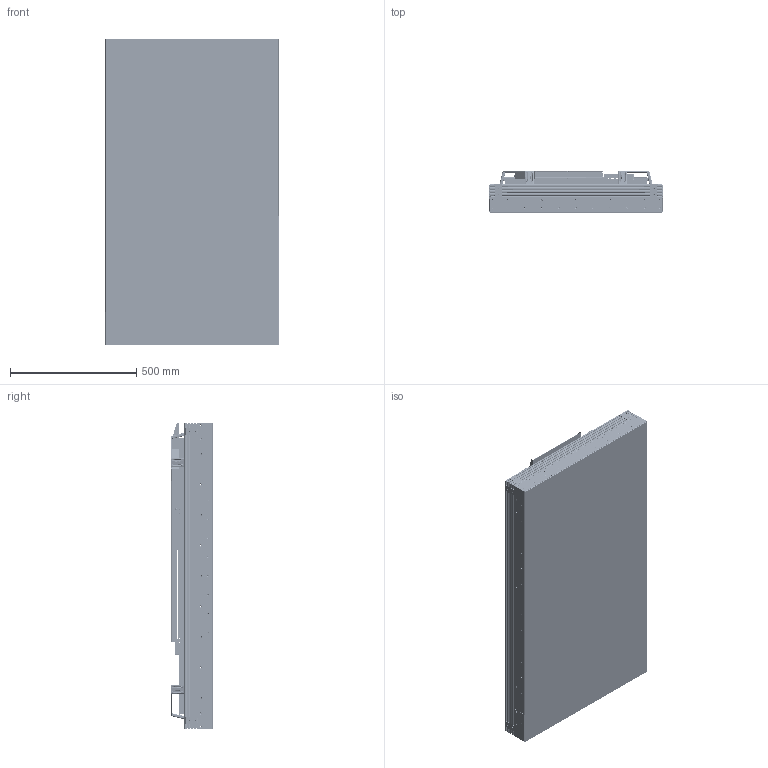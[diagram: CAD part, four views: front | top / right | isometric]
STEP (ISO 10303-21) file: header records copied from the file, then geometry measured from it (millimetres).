
FILE_DESCRIPTION(/* description */ (''),/* implementation_level */ '2;1');
FILE_NAME(/* name */ 'C:/Users/Juuso/Downloads/MT557DwithPortraitAirChannel.step',/* time_stamp */ '2020-12-11T10:24:30+02:00',/* author */ (''),/* organization */ (''),/* preprocessor_version */ 'ST-DEVELOPER v18.1',/* originating_system */ 'Autodesk Translation Framework v9.7.1.1290',/* authorisation */ '');
FILE_SCHEMA (('AUTOMOTIVE_DESIGN { 1 0 10303 214 3 1 1 }'));
Products named in the file (62): MT0901271RIGIDshell; MT0901270_MT557D Display BL Assy; MT0901269_MT557D Base Fame Assy; MT0601287; MT0601286_MT0601058; MT0601285_MT0601057; MT0601166; MT0601167; MT0601165; MT0601060_MT0601060; MT0601059_MT0601059; MT0901090; MT0601070; MT0601080; MT0901107; MT0601071; 060620_060620_494mm; MT0901108; MT0901108 (1); MT0601072; 060620_060620_535mm; MT0901119; MT0601102; MT1601093_MT1601093; 060620_060620_429mm; 060620_060620_348mm; 060620_060620_283mm; MT1601014; MT1601074; Component89; Component90; Component91; Component92; Component93; Component94; MT0601171; MT0601294; MT0601289; MT0601288; MT0701010_Front Glas with Side Mask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
Assembly tree (156 placements, depth 6):
  MT0901271RIGIDshell
    MT0901270_MT557D Display BL Assy
      MT0901269_MT557D Base Fame Assy
        MT0601287
        MT0601286_MT0601058
        MT0601285_MT0601057
        MT0601166
        MT0601167
        MT0601165
        MT0601060_MT0601060
        MT0601059_MT0601059
        MT0901090
      MT0601070  x4
      MT0601080  x4
      MT0901107
        MT0601071
        MT1601093_MT1601093  x6
        060620_060620_494mm
        060620_060620_283mm  x2
      MT0901108
        MT0601072
        MT1601093_MT1601093  x5
        060620_060620_535mm
      MT0901108 (1)
        MT0601072
        MT1601093_MT1601093  x5
        060620_060620_535mm
      MT0901119
        MT0601102
        MT1601093_MT1601093  x8
        060620_060620_429mm
        060620_060620_348mm
        060620_060620_283mm
      MT1601014  x16
      MT1601074  x28
    Component89
    Component90
    Component91
    Component92
    Component93
    Component94
    Component95  x2
    Component96  x2
    MT0601171
    MT0601294
    MT0601289
    MT0601288
    MT0701010_Front Glas with Side Mask
      MT0701008_Protection Glass (1)
    Spacerplate
      Component1
    Spacerplate_1
      Component1
    Spacerplate_2
      Component1
    Spacerplate_3
      Component1
    Spacerplate_4
      Component1
    Spacerplate_5
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Bounding box: 686.69 x 166.65 x 1215.89 mm (x, y, z)
Volume: 7619781.6 mm3; surface area: 6624563.6 mm2
Topology: 136 solids, 136 shells, 16931 faces, 46283 edges, 30173 vertices
Faces by surface type: plane 12958, cylinder 2736, torus 498, bspline 362, cone 333, sphere 44
Full cylindrical faces by diameter (mm): 1.95 x12, 2.05 x58, 2.5 x54, 3.2 x94, 3.3 x74, 3.4 x16, 3.7 x38, 4.1 x24, 4.2 x44, 4.5 x82, 5 x49, 5.4 x52, 5.41 x2, 5.5 x56, 6.5 x60, 6.6 x32, 6.8 x28, 7 x2, 7.5 x18, 7.95 x24, 8.5 x59, 9 x4, 9.5 x28, 10 x38, 11 x28, 12 x4
Entity records: 475980 total; most frequent: CARTESIAN_POINT 103148, ORIENTED_EDGE 76052, DIRECTION 70162, EDGE_CURVE 38026, LINE 32144, VECTOR 32144, VERTEX_POINT 24824, AXIS2_PLACEMENT_3D 19009
